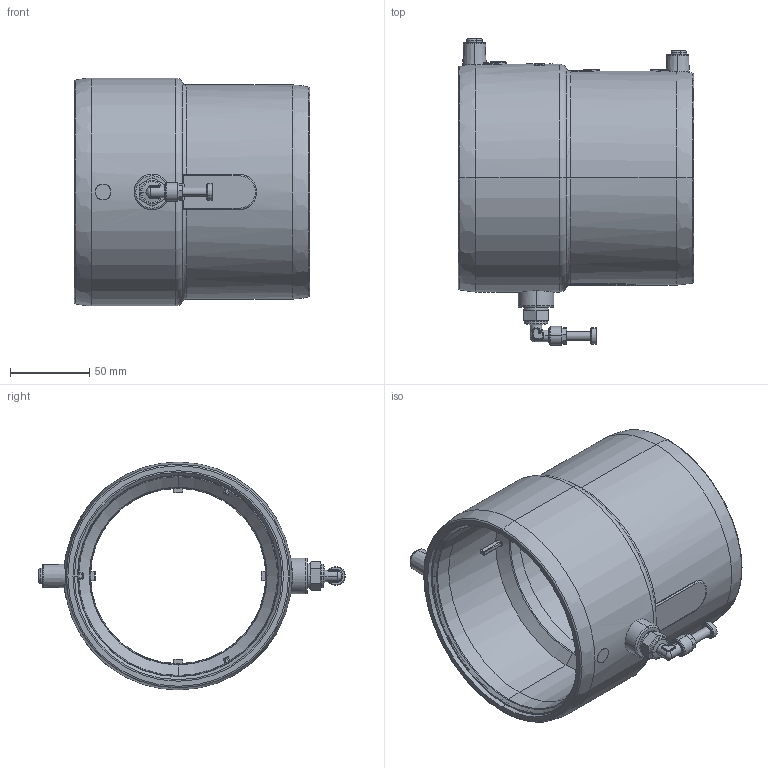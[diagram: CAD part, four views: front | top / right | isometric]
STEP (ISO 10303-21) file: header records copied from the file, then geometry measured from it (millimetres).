
FILE_DESCRIPTION (( 'STEP AP214' ), '1' );
FILE_NAME ('KP_T125_110SC2A.STEP', '2025-01-08T13:37:39', ( '' ), ( '' ), 'SwSTEP 2.0', 'SolidWorks 2023', '' );
FILE_SCHEMA (( 'AUTOMOTIVE_DESIGN' ));
Length unit declared in the file: millimetre
Products named in the file (1): KP_T125_110SC2A
Bounding box: 148.5 x 193.69 x 143.9 mm (x, y, z)
Volume: 659335.6 mm3; surface area: 143311.1 mm2
Topology: 1 solids, 11 shells, 860 faces, 2073 edges, 1257 vertices
Faces by surface type: plane 273, cylinder 238, bspline 162, cone 97, torus 68, sphere 22
Entity records: 30749 total; most frequent: CARTESIAN_POINT 12686, ORIENTED_EDGE 4078, DIRECTION 3441, EDGE_CURVE 2039, AXIS2_PLACEMENT_3D 1402, VERTEX_POINT 1253, EDGE_LOOP 934, ADVANCED_FACE 860
